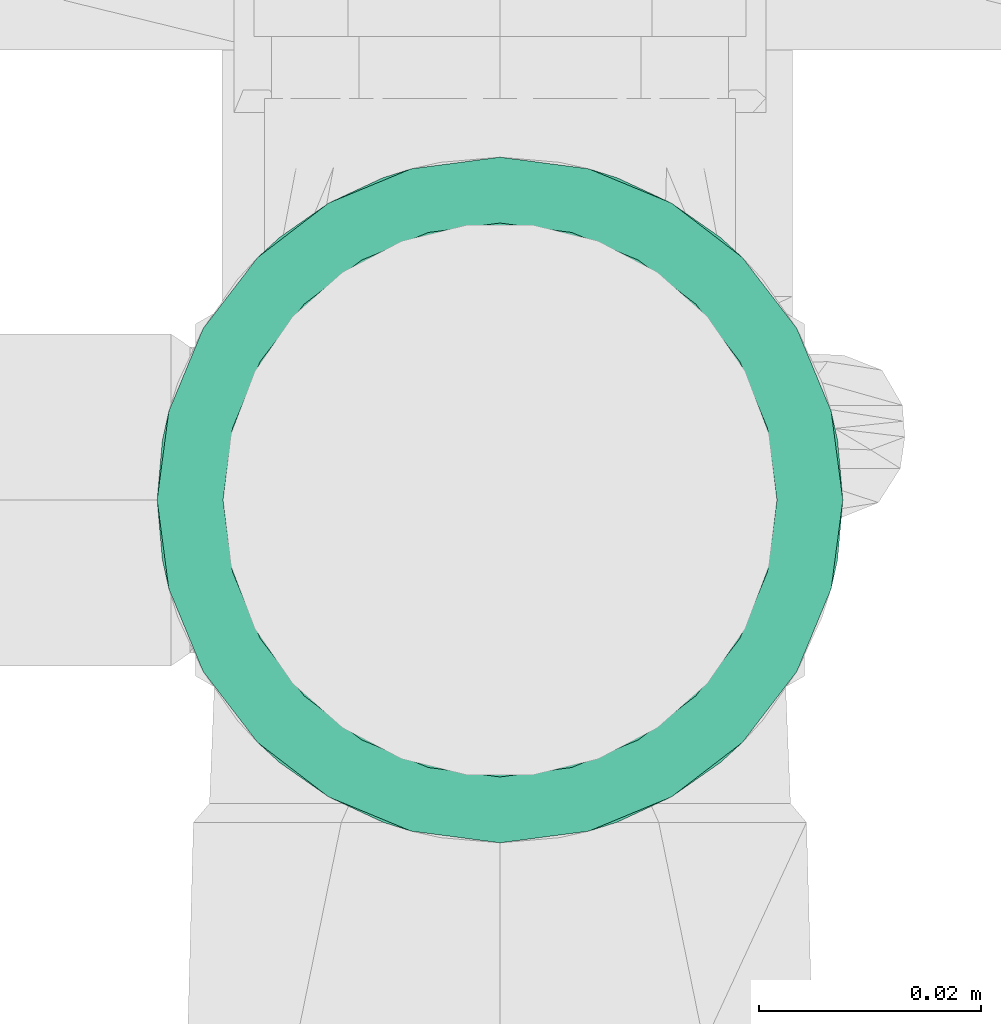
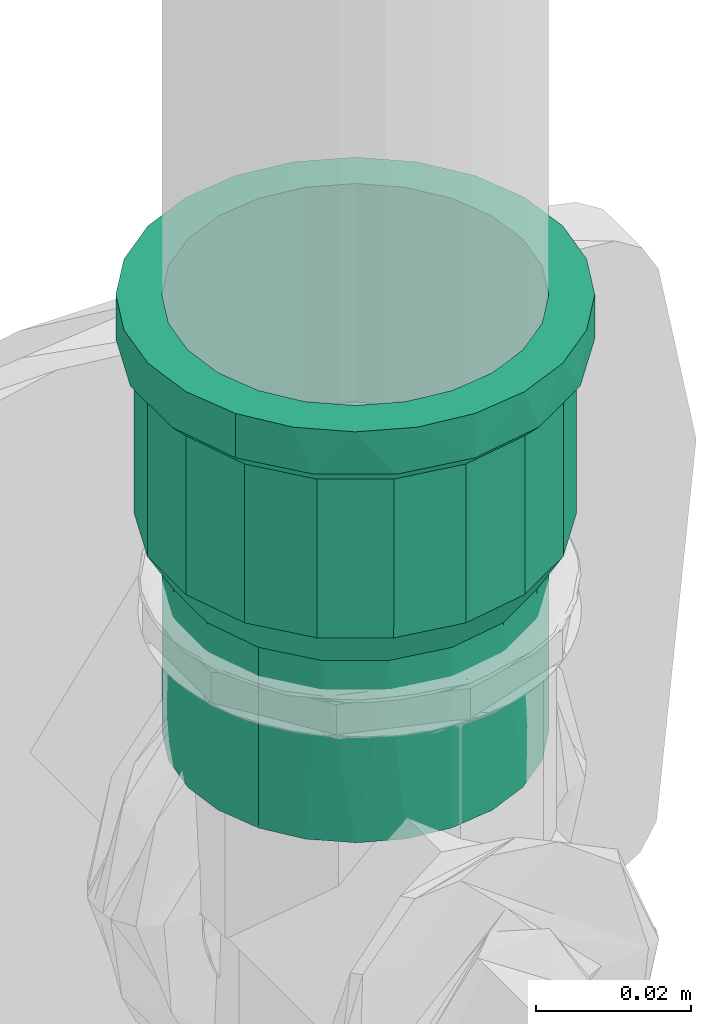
# One storey, part 205 of 589: 1 flow fitting.
"""IFC2X3 building model written with IfcOpenShell, lengths in millimetres."""

from ifc_helpers import new_model, entity, si_unit, converted_unit, derived_unit, direction, frame, origin, place, context, subcontext, project, spatial, faceted_brep, source, transform, mapped, material, type_object, type_shapes, element, save


model = new_model("IFC2X3")

# Units and contexts
model_context = context("Model", 3, precision=0.01, world=origin(), true_north=direction((6.123031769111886e-17, 1.0)))
body_context = subcontext(model_context, "Body", "Model", "MODEL_VIEW")
ifc_project = project(units=[si_unit("LENGTHUNIT", "METRE", prefix="MILLI"), si_unit("AREAUNIT", "SQUARE_METRE"), si_unit("VOLUMEUNIT", "CUBIC_METRE"), converted_unit("PLANEANGLEUNIT", "DEGREE", entity("IfcRatioMeasure", 0.017453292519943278), si_unit("PLANEANGLEUNIT", "RADIAN"), dimensions=[0, 0, 0, 0, 0, 0, 0]), si_unit("MASSUNIT", "GRAM", prefix="KILO"), derived_unit("MASSDENSITYUNIT", [(si_unit("MASSUNIT", "GRAM", prefix="KILO"), 1), (si_unit("LENGTHUNIT", "METRE"), -3)]), derived_unit("IONCONCENTRATIONUNIT", [(si_unit("MASSUNIT", "GRAM", prefix="KILO"), 1), (si_unit("LENGTHUNIT", "METRE"), -3)]), derived_unit("MOMENTOFINERTIAUNIT", [(si_unit("LENGTHUNIT", "METRE"), 4)]), si_unit("TIMEUNIT", "SECOND"), si_unit("FREQUENCYUNIT", "HERTZ"), si_unit("THERMODYNAMICTEMPERATUREUNIT", "DEGREE_CELSIUS"), derived_unit("THERMALTRANSMITTANCEUNIT", [(si_unit("MASSUNIT", "GRAM", prefix="KILO"), 1), (si_unit("THERMODYNAMICTEMPERATUREUNIT", "KELVIN"), -1), (si_unit("TIMEUNIT", "SECOND"), -3)]), derived_unit("THERMALCONDUCTANCEUNIT", [(si_unit("MASSUNIT", "GRAM", prefix="KILO"), 1), (si_unit("THERMODYNAMICTEMPERATUREUNIT", "KELVIN"), -1), (si_unit("TIMEUNIT", "SECOND"), -3), (si_unit("LENGTHUNIT", "METRE"), 1)]), derived_unit("VOLUMETRICFLOWRATEUNIT", [(si_unit("LENGTHUNIT", "METRE"), 3), (si_unit("TIMEUNIT", "SECOND"), -1)]), derived_unit("MASSFLOWRATEUNIT", [(si_unit("MASSUNIT", "GRAM", prefix="KILO"), 1), (si_unit("TIMEUNIT", "SECOND"), -1)]), derived_unit("ROTATIONALFREQUENCYUNIT", [(si_unit("TIMEUNIT", "SECOND"), -1)]), si_unit("ELECTRICCURRENTUNIT", "AMPERE"), si_unit("ELECTRICVOLTAGEUNIT", "VOLT"), si_unit("POWERUNIT", "WATT"), si_unit("FORCEUNIT", "NEWTON", prefix="KILO"), si_unit("ILLUMINANCEUNIT", "LUX"), si_unit("LUMINOUSFLUXUNIT", "LUMEN"), si_unit("LUMINOUSINTENSITYUNIT", "CANDELA"), derived_unit("USERDEFINED", [(si_unit("MASSUNIT", "GRAM", prefix="KILO"), -1), (si_unit("LENGTHUNIT", "METRE"), -2), (si_unit("TIMEUNIT", "SECOND"), 3), (si_unit("LUMINOUSFLUXUNIT", "LUMEN"), 1)]), derived_unit("USERDEFINED", [(si_unit("MASSUNIT", "GRAM", prefix="KILO"), 1), (si_unit("TIMEUNIT", "SECOND"), -3), (si_unit("LENGTHUNIT", "METRE"), 3), (si_unit("ELECTRICCURRENTUNIT", "AMPERE"), -2)]), derived_unit("SOUNDPOWERUNIT", [(si_unit("MASSUNIT", "GRAM", prefix="KILO"), 1), (si_unit("TIMEUNIT", "SECOND"), -3), (si_unit("LENGTHUNIT", "METRE"), 2)]), derived_unit("SOUNDPRESSUREUNIT", [(si_unit("MASSUNIT", "GRAM", prefix="KILO"), 1), (si_unit("LENGTHUNIT", "METRE"), -1), (si_unit("TIMEUNIT", "SECOND"), -2)]), derived_unit("LINEARVELOCITYUNIT", [(si_unit("LENGTHUNIT", "METRE"), 1), (si_unit("TIMEUNIT", "SECOND"), -1)]), si_unit("PRESSUREUNIT", "PASCAL"), derived_unit("USERDEFINED", [(si_unit("MASSUNIT", "GRAM", prefix="KILO"), 1), (si_unit("LENGTHUNIT", "METRE"), -2), (si_unit("TIMEUNIT", "SECOND"), -2)]), derived_unit("LINEARFORCEUNIT", [(si_unit("MASSUNIT", "GRAM", prefix="KILO"), 1), (si_unit("TIMEUNIT", "SECOND"), -2)]), derived_unit("PLANARFORCEUNIT", [(si_unit("MASSUNIT", "GRAM", prefix="KILO"), 1), (si_unit("LENGTHUNIT", "METRE"), -1), (si_unit("TIMEUNIT", "SECOND"), -2)]), derived_unit("SPECIFICHEATCAPACITYUNIT", [(si_unit("THERMODYNAMICTEMPERATUREUNIT", "KELVIN"), -1), (si_unit("LENGTHUNIT", "METRE"), 2), (si_unit("TIMEUNIT", "SECOND"), -2)]), derived_unit("HEATINGVALUEUNIT", [(si_unit("LENGTHUNIT", "METRE"), 2), (si_unit("TIMEUNIT", "SECOND"), -2)]), derived_unit("VAPORPERMEABILITYUNIT", [(si_unit("LENGTHUNIT", "METRE"), -1), (si_unit("TIMEUNIT", "SECOND"), 1)]), derived_unit("DYNAMICVISCOSITYUNIT", [(si_unit("MASSUNIT", "GRAM", prefix="KILO"), 1), (si_unit("TIMEUNIT", "SECOND"), -1), (si_unit("LENGTHUNIT", "METRE"), -1)]), derived_unit("THERMALEXPANSIONCOEFFICIENTUNIT", [(si_unit("THERMODYNAMICTEMPERATUREUNIT", "KELVIN"), -1)]), derived_unit("MODULUSOFELASTICITYUNIT", [(si_unit("MASSUNIT", "GRAM", prefix="KILO"), 1), (si_unit("LENGTHUNIT", "METRE"), -1), (si_unit("TIMEUNIT", "SECOND"), -2)]), derived_unit("ISOTHERMALMOISTURECAPACITYUNIT", [(si_unit("LENGTHUNIT", "METRE"), 3), (si_unit("MASSUNIT", "GRAM", prefix="KILO"), -1)]), derived_unit("MOISTUREDIFFUSIVITYUNIT", [(si_unit("TIMEUNIT", "SECOND"), -1), (si_unit("LENGTHUNIT", "METRE"), 2)])], contexts=[model_context])

# Site, building, storey
site_placement = place(None, origin())
site = spatial("IfcSite", under=ifc_project, at=site_placement, Name="Default", CompositionType="ELEMENT")
building_placement = place(site_placement, origin())
building = spatial("IfcBuilding", under=site, at=building_placement, CompositionType="ELEMENT")
storey_placement = place(building_placement, frame((0.0, 0.0, 100.0)))
storey = spatial("IfcBuildingStorey", under=building, at=storey_placement, Name="TÉRREO", CompositionType="ELEMENT", Elevation=100.0)

# Flow fitting
ifc_material = material(Name="PVC Marrom")
pipe_fitting_type = type_object("IfcPipeFittingType", Name="PVC Marrom Soldável_Adaptador Curto com Bolsa e Rosca Aninhado_Rodrigo MEP:Adaptador", PredefinedType="NOTDEFINED", material=ifc_material)
shared_shape = source(origin(), body_context, "Body", "Brep", [
    faceted_brep([(0.0, 12.499999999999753, -21.65063509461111), (0.0, 21.884954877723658, -21.88495487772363), (0.0, 15.475000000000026, -26.803486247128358), (0.0, 17.677669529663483, -17.6776695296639), (0.0, 6.470476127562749, -24.14814565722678), (0.0, 26.803486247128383, -15.474999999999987), (0.0, 21.650635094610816, -12.500000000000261), (0.0, 24.148145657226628, -6.470476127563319), (0.0, 29.895404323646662, -8.01044944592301), (0.0, 25.0, 0.0), (0.0, 30.95, 0.0), (0.0, 24.14814565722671, 6.470476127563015), (0.0, 29.895404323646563, 8.010449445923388), (0.0, 21.65063509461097, 12.499999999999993), (0.0, 26.80348624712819, 15.475000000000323), (0.0, 17.6776695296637, 17.677669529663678), (0.0, 21.884954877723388, 21.884954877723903), (0.0, 12.500000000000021, 21.65063509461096), (0.0, 15.474999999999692, 26.803486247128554), (0.0, 6.4704761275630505, 24.1481456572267), (0.0, 8.010449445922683, 29.89540432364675), (0.0, 0.0, 25.0), (0.0, 0.0, 30.95), (0.0, -6.4704761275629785, 24.14814565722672), (0.0, -8.010449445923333, 29.895404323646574), (0.0, -12.49999999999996, 21.650635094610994), (0.0, -15.475000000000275, 26.803486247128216), (0.0, -17.677669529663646, 17.67766952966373), (0.0, -21.884954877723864, 21.884954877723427), (0.0, -21.65063509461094, 12.500000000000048), (0.0, -26.803486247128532, 15.474999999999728), (0.0, -29.89540432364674, 8.010449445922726), (0.0, -24.14814565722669, 6.4704761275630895), (0.0, -30.95, 0.0), (0.0, -25.0, 0.0), (0.0, -29.895404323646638, -8.010449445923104), (0.0, -24.148145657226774, -6.470476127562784), (0.0, -26.803486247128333, -15.475000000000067), (0.0, -21.6506350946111, -12.499999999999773), (0.0, -21.884954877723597, -21.884954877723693), (0.0, -17.677669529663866, -17.67766952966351), (0.0, -15.474999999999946, -26.803486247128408), (0.0, -12.500000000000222, -21.650635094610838), (0.0, -8.010449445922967, -29.895404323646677), (0.0, -6.470476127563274, -24.148145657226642), (0.0, 0.0, -30.95), (0.0, 0.0, -25.0), (0.0, 8.010449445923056, -29.895404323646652), (7.0, -30.016595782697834, 5.29316701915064), (7.0, -29.88065133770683, 6.064083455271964), (7.0, -29.083191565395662, 10.586334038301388), (7.0, -23.70796650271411, 19.895598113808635), (7.0, -19.590362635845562, 23.350189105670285), (7.0, -26.395579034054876, 15.24096607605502), (7.0, -5.3710129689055, 30.480398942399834), (7.0, -10.421885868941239, 28.6425895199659), (7.0, -30.95, 0.0), (7.0, -15.472758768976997, 26.804780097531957), (7.0, 10.42907040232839, 28.639974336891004), (7.0, 15.479482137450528, 26.80089798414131), (7.0, 5.37865866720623, 30.479050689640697), (7.0, 19.596219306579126, 23.345274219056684), (7.0, 23.712956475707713, 19.889650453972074), (7.0, 29.08584618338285, 10.57903832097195), (7.0, 30.95, 0.0), (7.0, 26.39940132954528, 15.234344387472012), (7.0, 0.0038228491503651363, 30.47972481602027), (7.0, 29.08584618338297, -10.579038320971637), (7.0, 23.71295647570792, -19.88965045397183), (7.0, 19.596219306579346, -23.3452742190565), (7.0, 26.39940132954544, -15.234344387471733), (7.0, 5.378658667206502, -30.47905068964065), (7.0, 10.429070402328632, -28.639974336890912), (7.0, 15.47948213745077, -26.800897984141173), (7.0, -30.0165957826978, -5.2931670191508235), (7.0, -10.421885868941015, -28.642589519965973), (7.0, -15.472758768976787, -26.804780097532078), (7.0, -5.3710129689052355, -30.480398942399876), (7.0, -19.590362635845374, -23.350189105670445), (7.0, -23.707966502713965, -19.895598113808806), (7.0, -29.083191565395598, -10.58633403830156), (7.0, -29.88065131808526, -6.064083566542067), (7.0, -26.395579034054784, -15.240966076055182), (7.0, 0.003822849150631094, -30.479724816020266), (9.400000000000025, -26.87493630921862, 9.782525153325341), (9.400000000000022, -27.737468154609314, 4.891262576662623), (34.4499999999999, -26.875116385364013, 9.782030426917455), (9.40000000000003, -18.102887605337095, 21.577234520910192), (34.4499999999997, -14.299296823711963, 24.768732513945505), (9.400000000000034, -14.297928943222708, 24.769522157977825), (9.400000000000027, -24.391391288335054, 14.083736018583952), (34.44999999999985, -24.391819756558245, 14.083085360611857), (34.4499999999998, -21.908523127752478, 18.384140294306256), (34.44999999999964, -4.965271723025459, 28.165689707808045), (9.400000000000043, -4.963197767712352, 28.16605524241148), (9.400000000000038, -9.63056335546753, 26.467788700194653), (9.400000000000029, -21.907846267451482, 18.384946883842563), (9.40000000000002, -28.600000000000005, 0.0), (34.44999999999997, -27.796398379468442, 4.557325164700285), (34.44999999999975, -18.103909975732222, 21.57643640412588), (34.44999999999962, 4.967670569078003, 28.165266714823), (9.400000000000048, 0.003532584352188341, 28.165432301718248), (34.44999999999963, 0.0011994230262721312, 28.165478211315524), (34.44999999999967, -9.632284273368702, 26.46721111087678), (9.400000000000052, 4.970262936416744, 28.164809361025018), (9.400000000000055, 9.63720237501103, 26.465372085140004), (34.449999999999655, 14.301406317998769, 24.76751455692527), (9.40000000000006, 14.304141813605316, 24.765934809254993), (34.449999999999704, 18.105747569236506, 21.574894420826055), (34.44999999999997, -27.73755819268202, 4.891015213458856), (34.449999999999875, 26.875949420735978, 9.779741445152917), (34.450000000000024, 28.600000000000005, 0.0), (9.400000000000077, 26.87738936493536, 9.77578339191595), (34.449999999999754, 21.910088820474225, 18.38227428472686), (9.40000000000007, 21.91245735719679, 18.379450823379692), (9.400000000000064, 18.108299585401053, 21.57269281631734), (34.44999999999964, 9.634538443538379, 26.46639063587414), (9.400000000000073, 24.394923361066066, 14.077617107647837), (34.450000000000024, -28.600000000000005, 0.0), (9.40000000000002, 28.600000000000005, 0.0), (34.44999999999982, 24.3930191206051, 14.081007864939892), (9.40000000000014, 26.87738936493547, -9.77578339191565), (34.45000000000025, 26.87594942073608, -9.77974144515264), (9.400000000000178, -18.10288760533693, -21.577234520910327), (34.45000000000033, -14.299296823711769, -24.76873251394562), (34.45000000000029, -18.10390997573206, -21.57643640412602), (9.400000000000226, 18.108299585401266, -21.57269281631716), (9.400000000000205, 21.912457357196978, -18.37945082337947), (34.450000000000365, 21.910088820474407, -18.38227428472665), (9.400000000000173, 24.394923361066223, -14.077617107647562), (34.45000000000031, 24.393019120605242, -14.081007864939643), (9.40000000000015, -21.907846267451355, -18.384946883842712), (34.45000000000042, 0.0011994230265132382, -28.165478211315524), (9.400000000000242, -4.963197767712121, -28.166055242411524), (9.40000000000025, 0.0035325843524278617, -28.165432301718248), (9.40000000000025, 9.637202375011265, -26.46537208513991), (9.400000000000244, 14.304141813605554, -24.765934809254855), (34.45000000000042, 14.301406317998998, -24.76751455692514), (9.400000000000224, -9.63056335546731, -26.467788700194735), (34.45000000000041, -4.965271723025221, -28.165689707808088), (34.45000000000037, -9.632284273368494, -26.467211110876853), (34.45000000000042, 9.634538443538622, -26.46639063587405), (9.400000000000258, 4.970262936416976, -28.164809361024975), (9.400000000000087, -26.874936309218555, -9.782525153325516), (9.40000000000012, -24.391391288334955, -14.083736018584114), (34.45000000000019, -24.391819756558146, -14.083085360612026), (34.450000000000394, 18.1057475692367, -21.574894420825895), (34.450000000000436, 4.967670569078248, -28.16526671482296), (34.45000000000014, -26.875116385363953, -9.782030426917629), (34.45000000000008, -27.796398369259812, -4.557325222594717), (9.400000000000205, -14.297928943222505, -24.769522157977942), (9.400000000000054, -27.737468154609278, -4.891262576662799), (34.450000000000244, -21.908523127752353, -18.38414029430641), (34.45000000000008, -27.737558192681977, -4.891015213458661), (69.0, 6.4704761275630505, -24.1481456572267), (69.0, 12.500000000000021, -21.65063509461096), (69.0, 17.6776695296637, -17.677669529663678), (69.0, 21.650635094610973, -12.499999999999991), (69.0, 24.14814565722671, -6.470476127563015), (69.0, 25.0, 0.0), (69.0, 24.148145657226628, 6.470476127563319), (69.0, 21.650635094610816, 12.500000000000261), (69.0, 17.677669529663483, 17.6776695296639), (69.0, 12.499999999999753, 21.65063509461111), (69.0, 6.470476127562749, 24.14814565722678), (69.0, 0.0, 25.0), (69.0, -6.470476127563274, 24.148145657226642), (69.0, -12.500000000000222, 21.650635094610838), (69.0, -17.67766952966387, 17.677669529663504), (69.0, -21.650635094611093, 12.499999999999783), (69.0, -24.148145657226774, 6.470476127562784), (69.0, -25.0, 0.0), (69.0, -24.14814565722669, -6.4704761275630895), (69.0, -21.650635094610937, -12.500000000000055), (69.0, -17.677669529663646, -17.67766952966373), (69.0, -12.49999999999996, -21.650635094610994), (69.0, -6.4704761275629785, -24.14814565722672), (69.0, 0.0, -25.0), (40.499999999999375, -8.41832461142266, 23.136178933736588), (40.49999999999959, -19.1502152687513, 16.070757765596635), (40.49999999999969, -21.321146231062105, 12.310958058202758), (40.49999999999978, -23.492077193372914, 8.551158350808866), (40.49999999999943, -12.498189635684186, 21.651680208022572), (40.49999999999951, -15.824202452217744, 18.861218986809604), (40.49999999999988, -24.246038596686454, 4.2755791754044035), (40.49999999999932, -4.3384595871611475, 24.620677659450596), (40.499999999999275, 4.344635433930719, 24.61958860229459), (40.499999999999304, 0.003087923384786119, 24.620133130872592), (40.49999999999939, 15.828933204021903, 18.85724896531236), (40.49999999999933, 12.503620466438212, 21.648544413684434), (40.49999999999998, -25.0, 0.0), (40.49999999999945, 19.154245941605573, 16.065953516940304), (40.49999999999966, 23.494221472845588, 8.545265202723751), (40.499999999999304, 8.424127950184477, 23.13406650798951), (40.49999999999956, 21.324233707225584, 12.305609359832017), (40.49999999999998, 25.0, 0.0), (40.500000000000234, 19.15424594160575, -16.065953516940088), (40.500000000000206, -15.824202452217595, -18.861218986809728), (40.50000000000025, -12.498189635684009, -21.65168020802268), (40.500000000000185, 21.32423370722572, -12.305609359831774), (40.50000000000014, 23.494221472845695, -8.545265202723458), (40.5000000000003, 12.503620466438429, -21.64854441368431), (40.50000000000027, 15.82893320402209, -18.8572489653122), (40.50000000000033, 4.344635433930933, -24.619588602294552), (40.50000000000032, 8.42412795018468, -23.13406650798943), (40.5000000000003, -4.3384595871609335, -24.62067765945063), (40.50000000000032, 0.00308792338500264, -24.620133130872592), (40.50000000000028, -8.41832461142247, -23.136178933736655), (40.50000000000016, -19.150215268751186, -16.070757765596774), (40.50000000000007, -23.49207719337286, -8.551158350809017), (40.500000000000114, -21.321146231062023, -12.31095805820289), (40.50000000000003, -24.246038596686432, -4.275579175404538), (9.40000000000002, -25.0, 0.0), (34.450000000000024, -25.0, 0.0), (34.450000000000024, -24.14814565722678, -6.470476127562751), (9.40000000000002, -24.14814565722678, -6.470476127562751), (7.0, -24.14814565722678, -6.470476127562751), (7.0, -25.0, 0.0), (34.450000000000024, -21.650635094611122, -12.499999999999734), (9.40000000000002, -21.650635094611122, -12.499999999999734), (7.0, -21.650635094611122, -12.499999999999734), (9.40000000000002, -12.500000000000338, -21.65063509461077), (7.0, -12.500000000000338, -21.65063509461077), (7.0, -17.677669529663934, -17.677669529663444), (9.40000000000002, -17.677669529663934, -17.677669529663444), (34.450000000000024, -17.677669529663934, -17.677669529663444), (34.450000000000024, -12.500000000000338, -21.65063509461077), (9.40000000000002, -6.470476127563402, -24.148145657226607), (7.0, -6.470476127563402, -24.148145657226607), (34.450000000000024, -6.470476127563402, -24.148145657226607), (34.450000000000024, 0.0, -25.0), (9.40000000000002, 0.0, -25.0), (7.0, 0.0, -25.0), (34.450000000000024, 6.470476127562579, -24.148145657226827), (9.40000000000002, 6.470476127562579, -24.148145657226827), (7.0, 6.470476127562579, -24.148145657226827), (34.450000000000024, 12.49999999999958, -21.65063509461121), (9.40000000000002, 12.49999999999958, -21.65063509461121), (7.0, 12.49999999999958, -21.65063509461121), (34.450000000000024, 24.148145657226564, -6.470476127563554), (34.450000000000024, 25.0, 0.0), (9.40000000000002, 25.0, 0.0), (7.0, 25.0, 0.0), (7.0, 24.14814565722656, -6.470476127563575), (9.40000000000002, 24.148145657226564, -6.470476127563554), (34.450000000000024, 17.677669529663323, -17.677669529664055), (9.40000000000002, 17.677669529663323, -17.677669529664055), (7.0, 17.677669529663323, -17.677669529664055), (34.450000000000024, 21.650635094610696, -12.500000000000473), (9.40000000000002, 21.650635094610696, -12.500000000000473), (7.0, 21.650635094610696, -12.500000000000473), (34.450000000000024, 24.148145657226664, 6.470476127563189), (9.40000000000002, 24.148145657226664, 6.470476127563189), (7.0, 24.148145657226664, 6.470476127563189), (34.450000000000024, 21.65063509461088, 12.50000000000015), (9.40000000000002, 21.65063509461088, 12.50000000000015), (7.0, 21.65063509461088, 12.50000000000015), (9.40000000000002, 12.49999999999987, 21.650635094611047), (7.0, 12.49999999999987, 21.650635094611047), (7.0, 17.677669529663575, 17.677669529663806), (9.40000000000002, 17.677669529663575, 17.677669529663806), (34.450000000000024, 17.677669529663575, 17.677669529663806), (34.450000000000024, 12.49999999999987, 21.650635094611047), (9.40000000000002, 6.470476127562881, 24.14814565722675), (7.0, 6.470476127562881, 24.14814565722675), (34.450000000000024, 6.470476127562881, 24.14814565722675), (34.450000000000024, 0.0, 25.0), (9.40000000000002, 0.0, 25.0), (7.0, 0.0, 25.0), (9.40000000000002, -17.677669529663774, 17.677669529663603), (7.0, -17.677669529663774, 17.677669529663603), (7.0, -12.50000000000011, 21.650635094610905), (9.40000000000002, -12.50000000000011, 21.650635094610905), (34.450000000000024, -12.50000000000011, 21.650635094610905), (34.450000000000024, -17.677669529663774, 17.677669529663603), (9.40000000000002, -24.14814565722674, 6.470476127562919), (7.0, -24.14814565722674, 6.470476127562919), (7.0, -21.650635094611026, 12.499999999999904), (9.40000000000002, -21.650635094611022, 12.499999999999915), (34.450000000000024, -21.650635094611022, 12.499999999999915), (34.450000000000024, -24.14814565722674, 6.470476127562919), (7.0, -6.470476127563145, 24.148145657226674), (9.40000000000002, -6.470476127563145, 24.148145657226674), (34.450000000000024, -6.470476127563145, 24.148145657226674)], [[[0, 1, 2]], [[3, 1, 0]], [[4, 0, 2]], [[1, 3, 5]], [[5, 3, 6]], [[5, 6, 7]], [[8, 5, 7]], [[9, 8, 7]], [[10, 8, 9]], [[10, 9, 11]], [[12, 10, 11]], [[12, 11, 13]], [[14, 12, 13]], [[14, 13, 15]], [[15, 16, 14]], [[15, 17, 16]], [[18, 16, 17]], [[19, 18, 17]], [[18, 19, 20]], [[21, 20, 19]], [[22, 20, 21]], [[21, 23, 22]], [[24, 22, 23]], [[25, 24, 23]], [[24, 25, 26]], [[25, 27, 26]], [[27, 28, 26]], [[28, 27, 29]], [[28, 29, 30]], [[30, 29, 31]], [[31, 29, 32]], [[33, 31, 32]], [[32, 34, 33]], [[33, 34, 35]], [[34, 36, 35]], [[37, 35, 36]], [[37, 36, 38]], [[39, 37, 38]], [[40, 39, 38]], [[40, 41, 39]], [[42, 41, 40]], [[43, 41, 42]], [[42, 44, 43]], [[43, 44, 45]], [[44, 46, 45]], [[46, 4, 47]], [[45, 46, 47]], [[2, 47, 4]], [[31, 48, 49, 50]], [[28, 51, 52]], [[51, 30, 50, 53]], [[54, 24, 55]], [[30, 31, 50]], [[56, 48, 33]], [[52, 57, 26]], [[52, 26, 28]], [[30, 51, 28]], [[58, 59, 18]], [[58, 18, 20]], [[26, 57, 55]], [[26, 55, 24]], [[22, 24, 54]], [[33, 48, 31]], [[20, 60, 58]], [[16, 61, 62]], [[12, 63, 64]], [[63, 14, 62, 65]], [[12, 64, 10]], [[18, 61, 16]], [[22, 54, 66, 60]], [[22, 60, 20]], [[14, 16, 62]], [[59, 61, 18]], [[14, 63, 12]], [[8, 64, 67]], [[1, 68, 69]], [[68, 5, 67, 70]], [[71, 47, 72]], [[5, 8, 67]], [[8, 10, 64]], [[2, 72, 47]], [[69, 73, 2]], [[5, 68, 1]], [[74, 33, 35]], [[75, 76, 41]], [[2, 73, 72]], [[75, 41, 43]], [[45, 47, 71]], [[69, 2, 1]], [[43, 77, 75]], [[39, 78, 79]], [[35, 80, 81, 74]], [[80, 37, 79, 82]], [[37, 80, 35]], [[41, 78, 39]], [[45, 71, 83, 77]], [[45, 77, 43]], [[37, 39, 79]], [[76, 78, 41]], [[74, 56, 33]], [[84, 85, 86]], [[87, 88, 89]], [[90, 91, 92]], [[93, 94, 95]], [[92, 96, 90]], [[85, 97, 98]], [[99, 87, 96]], [[91, 84, 86]], [[100, 101, 102]], [[93, 95, 103]], [[89, 103, 95]], [[84, 91, 90]], [[100, 104, 101]], [[88, 87, 99]], [[105, 106, 107]], [[108, 107, 106]], [[85, 98, 109, 86]], [[102, 94, 93]], [[110, 111, 112]], [[113, 114, 115]], [[116, 104, 100]], [[112, 117, 110]], [[113, 115, 108]], [[104, 116, 105]], [[97, 118, 98]], [[115, 107, 108]], [[119, 112, 111]], [[99, 96, 92]], [[117, 114, 120]], [[110, 117, 120]], [[103, 89, 88]], [[102, 101, 94]], [[120, 114, 113]], [[106, 105, 116]], [[121, 111, 122]], [[123, 124, 125]], [[126, 127, 128]], [[129, 122, 130]], [[125, 131, 123]], [[129, 121, 122]], [[132, 133, 134]], [[135, 136, 137]], [[138, 139, 140]], [[119, 111, 121]], [[130, 127, 129]], [[141, 142, 135]], [[143, 144, 145]], [[126, 128, 146]], [[134, 147, 132]], [[135, 137, 141]], [[132, 139, 133]], [[138, 133, 139]], [[137, 136, 146]], [[143, 145, 148]], [[147, 142, 141]], [[149, 118, 97]], [[123, 150, 124]], [[124, 150, 140]], [[148, 151, 143]], [[146, 136, 126]], [[152, 144, 131]], [[151, 148, 153, 149]], [[144, 152, 145]], [[152, 131, 125]], [[142, 147, 134]], [[149, 97, 151]], [[128, 127, 130]], [[140, 150, 138]], [[154, 155, 156, 157, 158, 159, 160, 161, 162, 163, 164, 165, 166, 167, 168, 169, 170, 171, 172, 173, 174, 175, 176, 177]], [[178, 167, 166]], [[169, 168, 179]], [[169, 179, 180, 181]], [[182, 183, 167]], [[170, 181, 184]], [[166, 185, 178]], [[179, 168, 183]], [[165, 186, 187, 185]], [[165, 185, 166]], [[167, 183, 168]], [[188, 189, 163]], [[184, 171, 170]], [[184, 190, 171]], [[161, 191, 162]], [[169, 181, 170]], [[161, 160, 192]], [[163, 193, 164]], [[161, 192, 194, 191]], [[195, 160, 159]], [[164, 193, 186]], [[186, 165, 164]], [[189, 193, 163]], [[188, 163, 162]], [[162, 191, 188]], [[160, 195, 192]], [[178, 182, 167]], [[195, 159, 158]], [[157, 156, 196]], [[197, 198, 175]], [[157, 196, 199, 200]], [[201, 202, 155]], [[200, 195, 158]], [[154, 203, 204]], [[196, 156, 202]], [[177, 205, 206, 203]], [[197, 175, 174]], [[155, 202, 156]], [[204, 201, 155]], [[175, 198, 207]], [[157, 200, 158]], [[204, 155, 154]], [[173, 208, 174]], [[173, 172, 209]], [[173, 209, 210, 208]], [[171, 190, 211]], [[205, 177, 176]], [[207, 205, 176]], [[175, 207, 176]], [[174, 208, 197]], [[211, 209, 172]], [[171, 211, 172]], [[177, 203, 154]], [[212, 213, 214, 215, 216, 36, 34, 217]], [[215, 214, 218, 219, 220, 38, 36, 216]], [[221, 222, 42, 40, 223, 224, 225, 226]], [[225, 224, 223, 40, 38, 220, 219, 218]], [[227, 228, 44, 42, 222, 221, 226, 229]], [[227, 229, 230, 231, 232, 46, 44, 228]], [[231, 230, 233, 234, 235, 4, 46, 232]], [[234, 233, 236, 237, 238, 0, 4, 235]], [[239, 240, 241, 242, 9, 7, 243, 244]], [[237, 236, 245, 246, 247, 3, 0, 238]], [[245, 248, 249, 250, 6, 3, 247, 246]], [[248, 239, 244, 243, 7, 6, 250, 249]], [[241, 240, 251, 252, 253, 11, 9, 242]], [[252, 251, 254, 255, 256, 13, 11, 253]], [[257, 258, 17, 15, 259, 260, 261, 262]], [[261, 260, 259, 15, 13, 256, 255, 254]], [[263, 264, 19, 17, 258, 257, 262, 265]], [[263, 265, 266, 267, 268, 21, 19, 264]], [[269, 270, 27, 25, 271, 272, 273, 274]], [[275, 276, 32, 29, 277, 278, 279, 280]], [[274, 279, 278, 277, 29, 27, 270, 269]], [[212, 217, 34, 32, 276, 275, 280, 213]], [[273, 272, 271, 25, 23, 281, 282, 283]], [[267, 266, 283, 282, 281, 23, 21, 268]], [[64, 119, 121, 67]], [[81, 80, 143, 151, 97, 56, 74]], [[73, 136, 135, 142, 71, 72]], [[71, 142, 134, 133, 77, 83]], [[73, 69, 68, 127, 126, 136]], [[127, 68, 70, 67, 121, 129]], [[77, 133, 138, 150, 76, 75]], [[143, 80, 82, 79, 131, 144]], [[78, 76, 150, 123, 131, 79]], [[84, 50, 49, 48, 56, 97, 85]], [[53, 50, 84, 90, 96, 51]], [[52, 51, 96, 87, 89, 57]], [[89, 95, 94, 54, 55, 57]], [[101, 104, 60, 66, 54, 94]], [[105, 107, 59, 58, 60, 104]], [[112, 119, 64, 63]], [[114, 117, 112, 63, 65, 62]], [[107, 115, 114, 62, 61, 59]], [[233, 230, 229, 226, 225, 218, 214, 213, 280, 279, 274, 273, 283, 266, 265, 262, 261, 254, 251, 240, 239, 248, 245, 236]], [[190, 109, 98, 118]], [[184, 86, 109]], [[181, 86, 184]], [[185, 93, 178]], [[103, 88, 182]], [[99, 92, 179]], [[182, 88, 183]], [[91, 86, 181]], [[103, 182, 178]], [[178, 93, 103]], [[102, 185, 187]], [[180, 92, 91]], [[187, 100, 102]], [[91, 181, 180]], [[183, 88, 99]], [[99, 179, 183]], [[187, 186, 100]], [[191, 113, 188]], [[116, 100, 186]], [[179, 92, 180]], [[93, 185, 102]], [[189, 106, 193]], [[192, 195, 111]], [[120, 113, 191]], [[192, 110, 194]], [[108, 106, 189]], [[120, 191, 194]], [[194, 110, 120]], [[109, 190, 184]], [[188, 113, 108]], [[192, 111, 110]], [[108, 189, 188]], [[193, 106, 116]], [[116, 186, 193]], [[195, 200, 111]], [[203, 141, 204]], [[201, 146, 202]], [[196, 130, 199]], [[203, 147, 141]], [[201, 137, 146]], [[205, 132, 206]], [[196, 128, 130]], [[202, 128, 196]], [[111, 200, 122]], [[199, 130, 122]], [[146, 128, 202]], [[207, 139, 205]], [[206, 147, 203]], [[204, 141, 137]], [[199, 122, 200]], [[205, 139, 132]], [[204, 137, 201]], [[198, 124, 140]], [[198, 140, 207]], [[190, 153, 211]], [[209, 145, 210]], [[190, 118, 149, 153]], [[209, 148, 145]], [[208, 125, 197]], [[208, 152, 125]], [[210, 152, 208]], [[139, 207, 140]], [[125, 124, 197]], [[210, 145, 152]], [[211, 153, 148]], [[197, 124, 198]], [[206, 132, 147]], [[211, 148, 209]]]),
])
type_shapes(pipe_fitting_type, [shared_shape])
flow_fitting_placement = place(storey_placement, frame((10616.154026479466, -477.4611721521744, 988.0809161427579), z_axis=(-1.0, 0.0, 0.0), x_axis=(0.0, 0.0, -1.0)))
element("IfcFlowFitting", 1, at=flow_fitting_placement, inside=storey, type_object=pipe_fitting_type, material=ifc_material, Name="PVC Marrom Soldável_Adaptador Curto com Bolsa e Rosca Aninhado_Rodrigo MEP:Adaptador", ObjectType="PVC Marrom Soldável_Adaptador Curto com Bolsa e Rosca Aninhado_Rodrigo MEP:Adaptador", context=body_context, shape_type="MappedRepresentation", body=[
    mapped(shared_shape, transform((0.0, 0.0, 0.0), scale=1.0)),
])

save(model, "model.ifc")
